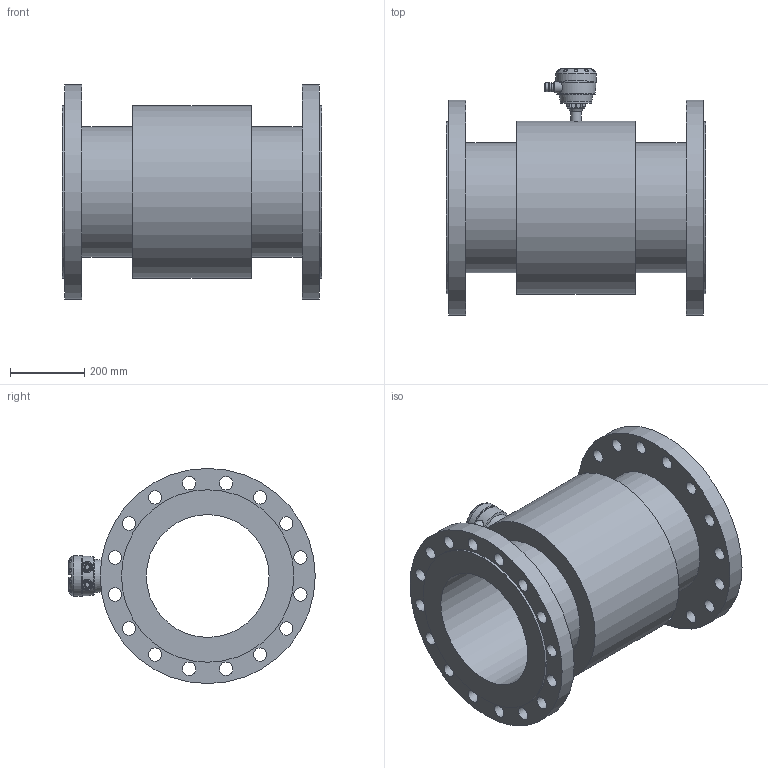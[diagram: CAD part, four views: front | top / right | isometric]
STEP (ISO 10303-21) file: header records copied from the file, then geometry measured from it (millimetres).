
FILE_DESCRIPTION (( 'STEP AP203' ), '1' );
FILE_NAME ('KROHNE_OPTIFLUX_2-4000W_DIN2635_DN350_PN40.STEP', '2011-04-26T11:26:43', ( '' ), ( '' ), 'SwSTEP 2.0', 'SolidWorks 2010', '' );
FILE_SCHEMA (( 'CONFIG_CONTROL_DESIGN' ));
Length unit declared in the file: millimetre
Products named in the file (1): KROHNE_OPTIFLUX_2-4000W_DIN2635_DN350_PN40
Bounding box: 700 x 664.49 x 580 mm (x, y, z)
Volume: 46844247.4 mm3; surface area: 2729921.2 mm2
Topology: 14 solids, 14 shells, 359 faces, 899 edges, 590 vertices
Faces by surface type: plane 158, cylinder 111, bspline 53, torus 18, sphere 13, cone 6
Full cylindrical faces by diameter (mm): 4 x4, 6.6 x8, 13 x2, 20 x2, 23.5 x4, 29 x1, 30 x2, 36 x32, 84 x2, 109 x1, 331 x1, 351 x2, 465 x2, 466 x1, 580 x2
Entity records: 14523 total; most frequent: CARTESIAN_POINT 6576, ORIENTED_EDGE 1522, DIRECTION 1509, EDGE_CURVE 761, AXIS2_PLACEMENT_3D 573, EDGE_LOOP 566, VERTEX_POINT 545, FACE_OUTER_BOUND 442
